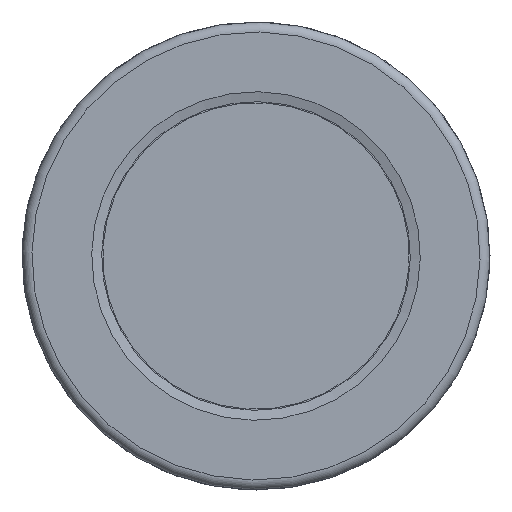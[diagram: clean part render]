
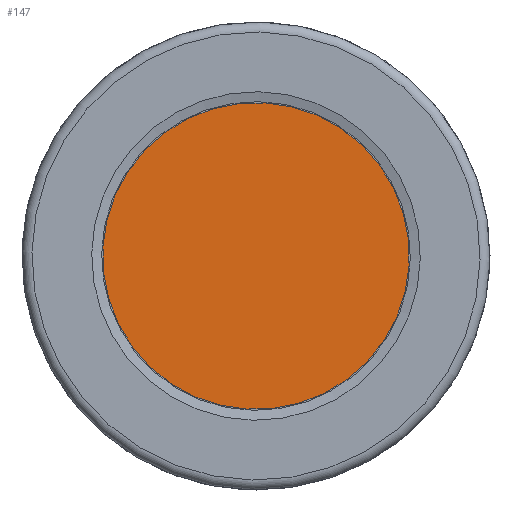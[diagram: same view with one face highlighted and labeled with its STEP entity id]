
A CAD part, front view. The second image highlights one B-rep face of the part: STEP entity #147.
In plain terms, the highlighted planar face has unit normal (0, -1, 0).
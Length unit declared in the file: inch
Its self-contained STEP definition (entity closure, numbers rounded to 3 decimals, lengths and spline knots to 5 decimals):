
#30 = CARTESIAN_POINT ( 'NONE',  ( 0., -5.66535, 0. ) ) ;
#147 = ADVANCED_FACE ( 'NONE', ( #1614 ), #3611, .T. ) ;
#496 = CARTESIAN_POINT ( 'NONE',  ( -0.33427, -5.66535, -0.50583 ) ) ;
#768 = DIRECTION ( 'NONE',  ( -0.551, 0., -0.834 ) ) ;
#1106 = EDGE_CURVE ( 'NONE', #1500, #1500, #3804, .T. ) ;
#1500 = VERTEX_POINT ( 'NONE', #496 ) ;
#1614 = FACE_OUTER_BOUND ( 'NONE', #1615, .T. ) ;
#1615 = EDGE_LOOP ( 'NONE', ( #3631 ) ) ;
#2184 = DIRECTION ( 'NONE',  ( 0., -1., 0. ) ) ;
#2464 = AXIS2_PLACEMENT_3D ( 'NONE', #30, #2184, #768 ) ;
#2891 = AXIS2_PLACEMENT_3D ( 'NONE', #3578, #3570, #3569 ) ;
#3569 = DIRECTION ( 'NONE',  ( -0.551, 0., -0.834 ) ) ;
#3570 = DIRECTION ( 'NONE',  ( 0., -1., 0. ) ) ;
#3578 = CARTESIAN_POINT ( 'NONE',  ( 0., -5.66535, 0. ) ) ;
#3611 = PLANE ( 'NONE',  #2891 ) ;
#3631 = ORIENTED_EDGE ( 'NONE', *, *, #1106, .T. ) ;
#3804 = CIRCLE ( 'NONE', #2464, 0.6063 ) ;
